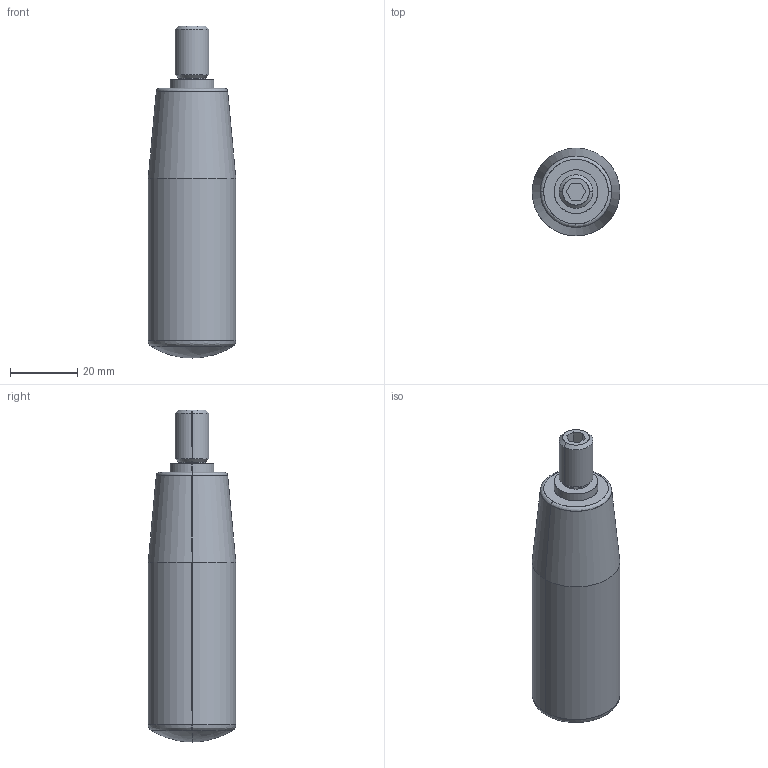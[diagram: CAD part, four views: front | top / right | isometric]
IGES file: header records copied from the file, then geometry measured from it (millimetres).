
Start section: SolidWorks IGES file using analytic representation for surfaces
Global section: file name: C:\HEMSIDA\cad\SLDPRT_2010\gn598\\gn598_80_m10.igs; native system: SolidWorks 2010; preprocessor: SolidWorks 2010; author: Administrator; date: 101001.152015; units: millimetre
Bounding box: 26 x 26 x 98.5 mm (x, y, z)
Surface area: 7600.9 mm2 (no closed solid volume)
Topology: 0 solids, 0 shells, 30 faces, 276 edges, 274 vertices
Faces by surface type: bspline 16, revolution 14
